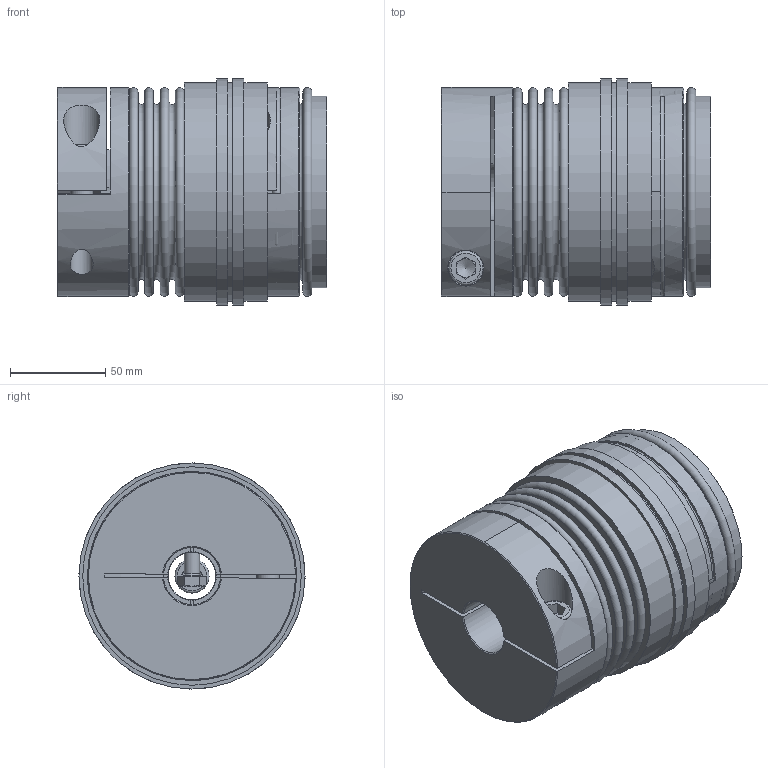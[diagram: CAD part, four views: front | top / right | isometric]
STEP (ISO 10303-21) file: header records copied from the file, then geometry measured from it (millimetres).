
FILE_DESCRIPTION( ( 'Unknown' ), '1' );
FILE_NAME( 'C:/Dokumente und Einstellungen/SKarpstein/Desktop/Korrigierte 3D Modelle/KBK-BKI-300-131.stp', 'Unknown', ( 'Unknown' ), ( 'Unknown' ), 'XStep 1.0', 'Unknown', ' ' );
FILE_SCHEMA( ( 'automotive_design' ) );
Length unit declared in the file: millimetre
Products named in the file (10): Assem1; Stellring 300_0; Druckring 300_0; Kupplung L-I-300 Grundkörper_0; Konusbuchse 300_0; din_en_24017_m8x30_0; Flansch BK300; KN300_Standard_2; Socket Head Cap Screw_DIN_DIN 912 M12 x 40 --- 40N_0; BK300_Standard_0
Bounding box: 142.07 x 119 x 119 mm (x, y, z)
Volume: 1448854.9 mm3; surface area: 457162 mm2
Topology: 23 solids, 23 shells, 516 faces, 1094 edges, 703 vertices
Faces by surface type: plane 241, cylinder 122, cone 110, torus 43
Full cylindrical faces by diameter (mm): 3.242 x6, 5.2 x6, 6.647 x18, 8 x7, 8.5 x12, 11.63 x7, 12 x4, 12.5 x2, 18 x2, 19 x2, 25 x4, 30 x2, 52 x4, 55 x4, 76 x6, 83.5 x2, 84 x2, 88 x2, 90 x2, 98 x2, 98.5 x2, 99.8 x4, 101 x4, 110 x2, 115 x4, 119 x2
Entity records: 5638 total; most frequent: CARTESIAN_POINT 1392, DIRECTION 905, ORIENTED_EDGE 618, AXIS2_PLACEMENT_3D 415, EDGE_LOOP 366, EDGE_CURVE 309, FACE_OUTER_BOUND 272, VERTEX_POINT 250
